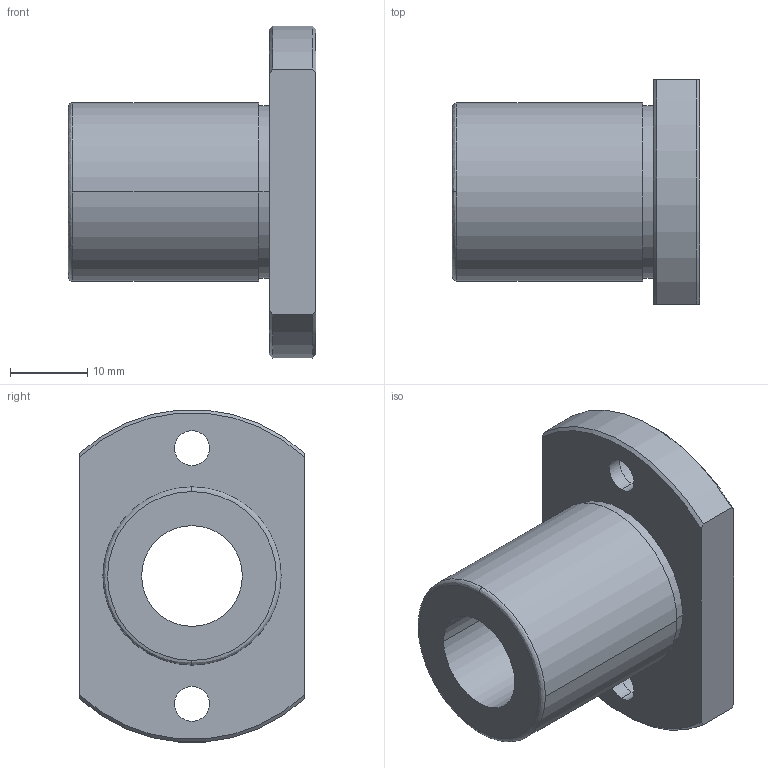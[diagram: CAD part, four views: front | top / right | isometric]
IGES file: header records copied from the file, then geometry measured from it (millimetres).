
Start section: 3D InterOp IGES (Version 21 0 1), Spatial Corp. Copyright (c) 1999-2007.
Global section: file name: NFEO-13VUU.igs; native system: Spatial Corp.; preprocessor: 3D InterOp GENERIC/IGES 3.0; author: Noname; organization: Noname; date: 20220308.103000; units: millimetre
Bounding box: 32 x 29 x 42.85 mm (x, y, z)
Surface area: 6153 mm2 (no closed solid volume)
Topology: 0 solids, 0 shells, 30 faces, 146 edges, 146 vertices
Faces by surface type: revolution 22, extrusion 8
